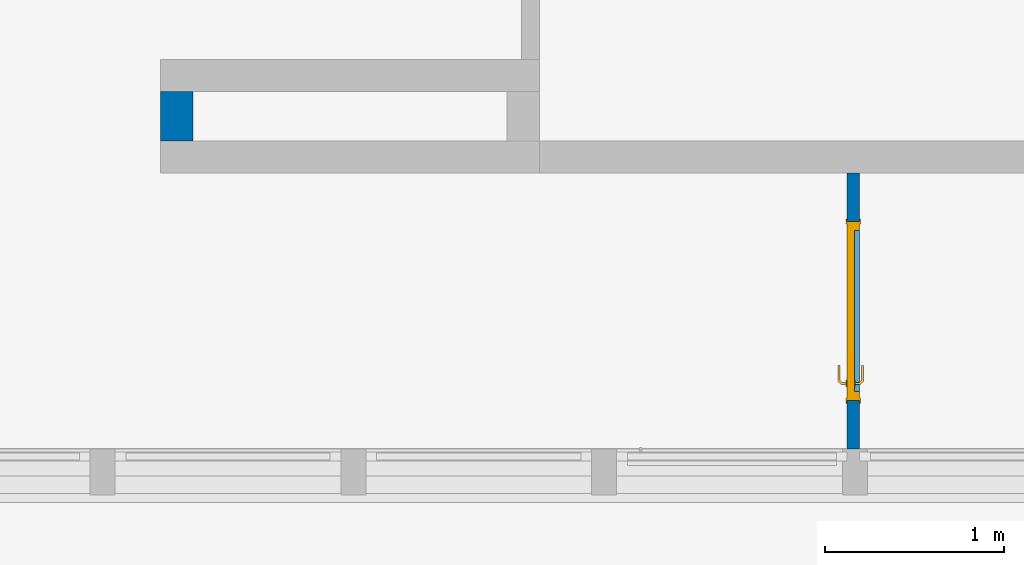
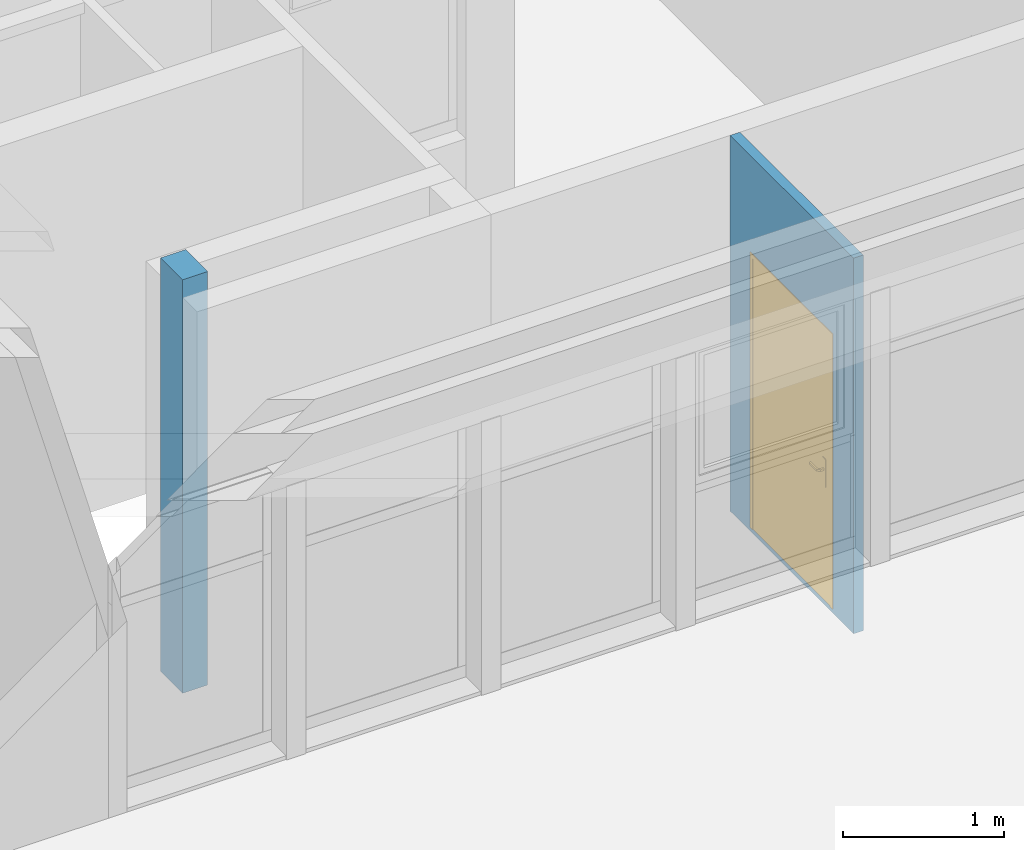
# One storey, part 22 of 49: 2 walls, 1 door, 1 opening.
"""IFC4 building model written with IfcOpenShell, lengths in metres."""

from ifc_helpers import new_model, entity, si_unit, converted_unit, derived_unit, direction, frame, origin, place, context, subcontext, project, spatial, indexed_curve, outline, extrude, polygons, source, transform, mapped, material, material_list, layer, layer_set, constituent, constituent_set, type_object, type_shapes, element, fill, save


model = new_model("IFC4")

# Units and contexts
model_context = context("Model", 3, precision=1e-05, world=origin(), true_north=direction((6.12303176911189e-17, 1.0)))
body_context = subcontext(model_context, "Body", "Model", "MODEL_VIEW")
ifc_project = project(units=[si_unit("LENGTHUNIT", "METRE"), si_unit("AREAUNIT", "SQUARE_METRE"), si_unit("VOLUMEUNIT", "CUBIC_METRE"), converted_unit("PLANEANGLEUNIT", "DEGREE", entity("IfcRatioMeasure", 0.0174532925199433), si_unit("PLANEANGLEUNIT", "RADIAN"), dimensions=[0, 0, 0, 0, 0, 0, 0]), si_unit("MASSUNIT", "GRAM", prefix="KILO"), derived_unit("MASSDENSITYUNIT", [(si_unit("MASSUNIT", "GRAM", prefix="KILO"), 1), (si_unit("LENGTHUNIT", "METRE"), -3)]), derived_unit("MOMENTOFINERTIAUNIT", [(si_unit("LENGTHUNIT", "METRE"), 4)]), si_unit("TIMEUNIT", "SECOND"), si_unit("FREQUENCYUNIT", "HERTZ"), si_unit("THERMODYNAMICTEMPERATUREUNIT", "DEGREE_CELSIUS"), derived_unit("THERMALTRANSMITTANCEUNIT", [(si_unit("MASSUNIT", "GRAM", prefix="KILO"), 1), (si_unit("THERMODYNAMICTEMPERATUREUNIT", "KELVIN"), -1), (si_unit("TIMEUNIT", "SECOND"), -3)]), derived_unit("VOLUMETRICFLOWRATEUNIT", [(si_unit("LENGTHUNIT", "METRE"), 3), (si_unit("TIMEUNIT", "SECOND"), -1)]), si_unit("ELECTRICCURRENTUNIT", "AMPERE"), si_unit("ELECTRICVOLTAGEUNIT", "VOLT"), si_unit("POWERUNIT", "WATT"), si_unit("FORCEUNIT", "NEWTON", prefix="KILO"), si_unit("ILLUMINANCEUNIT", "LUX"), si_unit("LUMINOUSFLUXUNIT", "LUMEN"), si_unit("LUMINOUSINTENSITYUNIT", "CANDELA"), derived_unit("USERDEFINED", [(si_unit("MASSUNIT", "GRAM", prefix="KILO"), -1), (si_unit("LENGTHUNIT", "METRE"), -2), (si_unit("TIMEUNIT", "SECOND"), 3), (si_unit("LUMINOUSFLUXUNIT", "LUMEN"), 1)]), derived_unit("LINEARVELOCITYUNIT", [(si_unit("LENGTHUNIT", "METRE"), 1), (si_unit("TIMEUNIT", "SECOND"), -1)]), si_unit("PRESSUREUNIT", "PASCAL"), derived_unit("USERDEFINED", [(si_unit("LENGTHUNIT", "METRE"), -2), (si_unit("MASSUNIT", "GRAM", prefix="KILO"), 1), (si_unit("TIMEUNIT", "SECOND"), -2)]), derived_unit("LINEARFORCEUNIT", [(si_unit("MASSUNIT", "GRAM", prefix="KILO"), 1), (si_unit("LENGTHUNIT", "METRE"), 1), (si_unit("TIMEUNIT", "SECOND"), -2), (si_unit("LENGTHUNIT", "METRE"), -1)]), derived_unit("PLANARFORCEUNIT", [(si_unit("MASSUNIT", "GRAM", prefix="KILO"), 1), (si_unit("LENGTHUNIT", "METRE"), 1), (si_unit("TIMEUNIT", "SECOND"), -2), (si_unit("LENGTHUNIT", "METRE"), -2)])], contexts=[model_context])

# Site, building, storey
site_placement = place(None, origin())
site = spatial("IfcSite", under=ifc_project, at=site_placement, Name="Default", CompositionType="ELEMENT")
building_placement = place(site_placement, origin())
building = spatial("IfcBuilding", under=site, at=building_placement, Name="HOTEL CONSULAIRE BOULOGNE SUR MER", CompositionType="ELEMENT")
storey_placement = place(building_placement, frame((0.0, 0.0, 6.81974152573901)))
storey = spatial("IfcBuildingStorey", under=building, at=storey_placement, Name="Niveau 2", CompositionType="ELEMENT", Elevation=6.81974152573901)

# Wall, opening, door
ifc_material_1 = material(Name="Mur par défaut", Category="Divers")
ifc_layer_1 = layer(ifc_material_1, 0.07, Name="Mur par défaut", Category="Divers")
ifc_layer_set_1 = layer_set([ifc_layer_1], Name="Mur de base:Int. Plâtre 70 mm")
wall_type_1 = type_object("IfcWallType", Name="Mur de base:Int. Plâtre 70 mm", PredefinedType="NOTDEFINED", material=ifc_layer_set_1)
wall_1_placement = place(storey_placement, frame((7.1661767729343, -19.5649143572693, -0.0349999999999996), z_axis=(0.0, 0.0, 1.0), x_axis=(0.0, 1.0, 0.0)))
wall_1 = element("IfcWall", 1, at=wall_1_placement, inside=storey, type_object=wall_type_1, material=ifc_layer_set_1, Name="Mur de base:Int. Plâtre 70 mm", ObjectType="Mur de base:Int. Plâtre 70 mm", PredefinedType="NOTDEFINED", context=body_context, shape_type="Tessellation", body=[
    polygons([(0.0, -0.035000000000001, 0.0), (1.54002682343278, -0.0350000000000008, 0.0), (1.54002682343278, -0.0350000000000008, 2.857), (0.0, -0.035000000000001, 2.857), (1.2700134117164, -0.0350000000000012, 2.11), (1.2700134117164, -0.0350000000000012, 0.0349999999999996), (0.2700134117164, -0.0350000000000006, 0.0349999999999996), (0.270013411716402, -0.0350000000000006, 2.11), (1.54002682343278, 0.0349999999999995, 0.0), (0.0, 0.0349999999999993, 0.0), (0.0, 0.0349999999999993, 2.857), (1.54002682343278, 0.0349999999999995, 2.857), (1.2700134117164, 0.0349999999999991, 0.0349999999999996), (1.2700134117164, 0.0349999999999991, 2.11), (0.2700134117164, 0.0349999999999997, 2.11), (0.2700134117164, 0.0349999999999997, 0.0349999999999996)], [[[1, 2, 3, 4], [8, 5, 6, 7]], [[9, 10, 11, 12], [14, 15, 16, 13]], [[2, 1, 10, 9]], [[14, 5, 8, 15]], [[2, 9, 12, 3]], [[15, 8, 7, 16]], [[13, 6, 5, 14]], [[10, 1, 4, 11]], [[13, 16, 7, 6]], [[12, 11, 4, 3]]], closed=True),
])
opening_placement = place(wall_1_placement, frame((0.2700134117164, -0.0349999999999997, 0.0349999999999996)))
opening = element("IfcOpeningElement", 2, at=opening_placement, cuts=wall_1, Name="Int. Simple:PP0.93x2.04:1", ObjectType="Opening", PredefinedType="OPENING", context=body_context, shape_type="SweptSolid", body=[
    extrude(outline(indexed_curve([(0.0, 1.0), (0.0, -9.40678225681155e-31), (2.075, -9.40678225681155e-31), (2.075, 1.0), (0.0, 1.0)], self_intersect=False)), frame((0.0, 0.0, 0.0), z_axis=(0.0, 1.0, 0.0), x_axis=(0.0, 0.0, 1.0)), (0.0, 0.0, 1.0), 0.07),
])
ifc_material_2 = material(Name="Finition Peinture - Blanc satiné", Category="Peinture")
ifc_constituent_1 = constituent(ifc_material_2, Name="Finition Peinture - Blanc satiné", Category="Matériaux")
ifc_material_3 = material(Name="Bois - Panneau de porte", Category="Bois")
ifc_constituent_2 = constituent(ifc_material_3, Name="Bois - Panneau de porte", Category="Matériaux")
ifc_material_4 = material(Name="Bois - Cadre de porte", Category="Bois")
ifc_constituent_3 = constituent(ifc_material_4, Name="Bois - Cadre de porte", Category="Matériaux")
ifc_constituent_set = constituent_set(constituents=[ifc_constituent_1, ifc_constituent_2, ifc_constituent_3], Name="MaterialConstituentSet")
ifc_material_list = material_list([ifc_material_3, ifc_material_4, ifc_material_2, ifc_material_4])
door_type = type_object("IfcDoorType", Name="Int. Simple:PP0.93x2.04", OperationType="NOTDEFINED", PredefinedType="DOOR", material=ifc_material_list)
shared_shape = source(origin(), body_context, "Body", "Tessellation", [
    polygons([(0.995000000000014, -0.00500000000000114, 0.870000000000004), (0.995000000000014, -0.00500000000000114, 1.08), (0.985352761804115, -0.00500000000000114, 1.08399601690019), (0.975000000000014, -0.00500000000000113, 1.08535898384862), (0.964647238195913, -0.00500000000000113, 1.08399601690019), (0.955000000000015, -0.00500000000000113, 1.08), (0.955000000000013, -0.00500000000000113, 0.870000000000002), (0.964647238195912, -0.00500000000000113, 0.866003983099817), (0.975000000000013, -0.00500000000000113, 0.86464101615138), (0.985352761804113, -0.00500000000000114, 0.866003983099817), (0.995000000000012, -1.15054632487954e-15, 0.870000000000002), (0.985352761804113, -1.14631637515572e-15, 0.866003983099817), (0.975000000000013, -1.1420864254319e-15, 0.86464101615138), (0.964647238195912, -1.13785647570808e-15, 0.866003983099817), (0.955000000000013, -1.13362652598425e-15, 0.870000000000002), (0.955000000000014, -1.13362652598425e-15, 1.08), (0.964647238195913, -1.13785647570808e-15, 1.08399601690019), (0.975000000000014, -1.1420864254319e-15, 1.08535898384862), (0.985352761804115, -1.14631637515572e-15, 1.08399601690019), (0.995000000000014, -1.15054632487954e-15, 1.08)], [[[1, 2, 3, 4, 5, 6, 7, 8, 9, 10]], [[20, 11, 12, 13, 14, 15, 16, 17, 18, 19]], [[10, 12, 11, 1]], [[9, 13, 12, 10]], [[8, 14, 13, 9]], [[8, 7, 15, 14]], [[15, 7, 6, 16]], [[5, 17, 16, 6]], [[4, 18, 17, 5]], [[3, 19, 18, 4]], [[3, 2, 20, 19]], [[11, 20, 2, 1]]], closed=True),
    polygons([(0.955000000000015, 0.0399999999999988, 1.08), (0.955000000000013, 0.0399999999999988, 0.870000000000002), (0.964647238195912, 0.0399999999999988, 0.866003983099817), (0.975000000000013, 0.0399999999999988, 0.86464101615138), (0.985352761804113, 0.0399999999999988, 0.866003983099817), (0.995000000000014, 0.0399999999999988, 0.870000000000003), (0.995000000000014, 0.0399999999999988, 1.08), (0.985352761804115, 0.0399999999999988, 1.08399601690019), (0.975000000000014, 0.0399999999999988, 1.08535898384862), (0.964647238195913, 0.0399999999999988, 1.08399601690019), (0.955000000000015, 0.0449999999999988, 1.08), (0.964647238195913, 0.0449999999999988, 1.08399601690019), (0.975000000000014, 0.0449999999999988, 1.08535898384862), (0.985352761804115, 0.0449999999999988, 1.08399601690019), (0.995000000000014, 0.0449999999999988, 1.08), (0.995000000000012, 0.0449999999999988, 0.870000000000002), (0.985352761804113, 0.0449999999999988, 0.866003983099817), (0.975000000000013, 0.0449999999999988, 0.86464101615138), (0.964647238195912, 0.0449999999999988, 0.866003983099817), (0.955000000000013, 0.0449999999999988, 0.870000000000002)], [[[6, 7, 8, 9, 10, 1, 2, 3, 4, 5]], [[13, 14, 15, 16, 17, 18, 19, 20, 11, 12]], [[10, 12, 11, 1]], [[9, 13, 12, 10]], [[8, 14, 13, 9]], [[8, 7, 15, 14]], [[16, 15, 7, 6]], [[5, 17, 16, 6]], [[4, 18, 17, 5]], [[3, 19, 18, 4]], [[3, 2, 20, 19]], [[20, 2, 1, 11]]], closed=True),
    polygons([(0.981000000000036, -0.00500000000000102, 1.00699999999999), (0.981000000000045, -0.00500000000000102, 0.992999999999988), (0.977025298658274, -0.00500000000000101, 0.99221955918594), (0.972974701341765, -0.00500000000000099, 0.992219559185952), (0.968999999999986, -0.00500000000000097, 0.993000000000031), (0.968999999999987, -0.00500000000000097, 1.007), (0.972974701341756, -0.00500000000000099, 1.00778044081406), (0.977025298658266, -0.00500000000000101, 1.00778044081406), (0.968999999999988, -0.0276803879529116, 1.007), (0.972974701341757, -0.029326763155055, 1.00778044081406), (0.977025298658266, -0.0310045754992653, 1.00778044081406), (0.981000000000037, -0.0326509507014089, 1.007), (0.968999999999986, -0.027680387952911, 0.993000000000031), (0.981000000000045, -0.0326509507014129, 0.992999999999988), (0.977025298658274, -0.0310045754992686, 0.99221955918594), (0.972974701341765, -0.0293267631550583, 0.992219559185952), (0.957652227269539, -0.0390281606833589, 1.007), (0.959298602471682, -0.043002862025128, 1.00778044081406), (0.960976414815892, -0.0470534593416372, 1.00778044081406), (0.962622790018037, -0.0510281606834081, 1.007), (0.957652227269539, -0.0390281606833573, 0.993000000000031), (0.96262279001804, -0.0510281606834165, 0.992999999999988), (0.960976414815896, -0.047053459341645, 0.99221955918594), (0.959298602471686, -0.0430028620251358, 0.992219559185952), (0.874981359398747, -0.0510281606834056, 1.007), (0.874981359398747, -0.0470534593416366, 1.00778044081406), (0.874981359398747, -0.0430028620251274, 1.00778044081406), (0.874981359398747, -0.039028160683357, 1.00699999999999), (0.874981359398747, -0.0390281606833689, 0.993000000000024), (0.874981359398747, -0.0430028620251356, 0.992219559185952), (0.874981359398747, -0.0470534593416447, 0.99221955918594), (0.874981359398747, -0.0510281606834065, 0.992999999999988), (0.922692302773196, -0.0510281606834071, 1.007), (0.917139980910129, -0.0450281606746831, 1.0078786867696), (0.916316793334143, -0.0390281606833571, 1.007), (0.922692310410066, -0.0510281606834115, 0.992999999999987), (0.917139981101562, -0.0450281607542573, 0.992121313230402), (0.916316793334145, -0.039028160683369, 0.993000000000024)], [[[7, 8, 1, 2, 3, 4, 5, 6]], [[17, 21, 38, 29, 28, 35]], [[1, 8, 11, 12]], [[8, 7, 10, 18, 19, 11]], [[7, 6, 9, 10]], [[13, 9, 6, 5]], [[25, 26, 27, 28, 29, 30, 31, 32]], [[4, 16, 13, 5]], [[4, 3, 15, 23, 24, 16]], [[2, 14, 15, 3]], [[12, 14, 2, 1]], [[12, 11, 19, 20]], [[10, 9, 17, 18]], [[21, 17, 9, 13]], [[13, 16, 24, 21]], [[15, 14, 22, 23]], [[20, 22, 14, 12]], [[34, 26, 33]], [[33, 26, 25]], [[33, 20, 19]], [[18, 35, 34]], [[35, 18, 17]], [[28, 27, 35]], [[34, 27, 26]], [[34, 35, 27]], [[34, 33, 19]], [[18, 34, 19]], [[37, 30, 38]], [[31, 37, 36]], [[24, 38, 21]], [[30, 29, 38]], [[31, 36, 32]], [[36, 23, 22]], [[37, 23, 36]], [[37, 24, 23]], [[37, 38, 24]], [[30, 37, 31]], [[22, 20, 33, 25, 32, 36]]], closed=True),
    polygons([(0.968999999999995, 0.044999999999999, 0.993000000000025), (0.972974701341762, 0.044999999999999, 0.992219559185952), (0.977025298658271, 0.044999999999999, 0.99221955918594), (0.981000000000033, 0.044999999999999, 0.992999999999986), (0.981000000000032, 0.044999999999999, 1.007), (0.977025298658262, 0.044999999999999, 1.00778044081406), (0.972974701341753, 0.044999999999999, 1.00778044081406), (0.968999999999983, 0.044999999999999, 1.007), (0.968999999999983, 0.0674852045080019, 1.007), (0.968999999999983, 0.067485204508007, 0.993000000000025), (0.981000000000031, 0.0724557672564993, 1.007), (0.977025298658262, 0.0708093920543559, 1.00778044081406), (0.972974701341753, 0.0691315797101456, 1.00778044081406), (0.981000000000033, 0.0724557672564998, 0.992999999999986), (0.972974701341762, 0.0691315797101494, 0.992219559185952), (0.977025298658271, 0.0708093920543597, 0.99221955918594), (0.957514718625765, 0.0789704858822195, 1.007), (0.957514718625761, 0.0789704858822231, 0.993000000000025), (0.962485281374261, 0.0909704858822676, 1.007), (0.960838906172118, 0.0869957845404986, 1.00778044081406), (0.959161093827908, 0.0829451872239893, 1.00778044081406), (0.962485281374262, 0.090970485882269, 0.992999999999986), (0.959161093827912, 0.0829451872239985, 0.992219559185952), (0.960838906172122, 0.0869957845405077, 0.99221955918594), (0.874954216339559, 0.0789704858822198, 0.993000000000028), (0.874954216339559, 0.078970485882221, 1.007), (0.874954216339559, 0.08294518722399, 1.00778044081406), (0.874954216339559, 0.0869957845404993, 1.00778044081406), (0.874954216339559, 0.0909704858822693, 1.007), (0.874954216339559, 0.0909704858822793, 0.992999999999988), (0.874954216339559, 0.0869957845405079, 0.99221955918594), (0.874954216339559, 0.0829451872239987, 0.992219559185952), (0.922554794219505, 0.0909704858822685, 1.007), (0.917057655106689, 0.0849704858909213, 1.0078786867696), (0.916234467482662, 0.0789704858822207, 1.007), (0.922554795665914, 0.0909704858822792, 0.992999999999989), (0.917057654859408, 0.0849704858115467, 0.992121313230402), (0.916234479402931, 0.0789704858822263, 0.993000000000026)], [[[2, 3, 4, 5, 6, 7, 8, 1]], [[18, 17, 35, 26, 25, 38]], [[9, 10, 1, 8]], [[27, 28, 29, 30, 31, 32, 25, 26]], [[7, 13, 9, 8]], [[7, 6, 12, 20, 21, 13]], [[5, 11, 12, 6]], [[11, 5, 4, 14]], [[4, 3, 16, 14]], [[3, 2, 15, 23, 24, 16]], [[2, 1, 10, 15]], [[17, 18, 10, 9]], [[9, 13, 21, 17]], [[11, 19, 20, 12]], [[22, 19, 11, 14]], [[14, 16, 24, 22]], [[15, 10, 18, 23]], [[34, 27, 35]], [[28, 34, 33]], [[21, 35, 17]], [[27, 26, 35]], [[28, 33, 29]], [[33, 20, 19]], [[34, 20, 33]], [[34, 21, 20]], [[34, 35, 21]], [[27, 34, 28]], [[19, 22, 36, 30, 29, 33]], [[37, 31, 36]], [[36, 31, 30]], [[36, 22, 24]], [[23, 38, 37]], [[38, 23, 18]], [[25, 32, 38]], [[37, 32, 31]], [[37, 38, 32]], [[37, 36, 24]], [[23, 37, 24]]], closed=True),
    polygons([(1.03500000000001, 0.04, 2.04), (1.03500000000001, 0.04, 0.0), (0.105000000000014, 0.04, 0.0), (0.105000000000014, 0.04, 2.04), (1.03500000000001, -5.07593966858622e-17, 2.04), (0.105000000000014, -5.07593966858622e-17, 2.04), (0.105000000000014, -5.07593966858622e-17, 0.0), (1.03500000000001, -5.07593966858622e-17, 0.0)], [[[3, 4, 1, 2]], [[8, 5, 6, 7]], [[5, 1, 4, 6]], [[6, 4, 3, 7]], [[7, 3, 2, 8]], [[8, 2, 1, 5]]], closed=True),
    polygons([(1.07000000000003, -4.22994972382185e-18, 0.0), (1.03500000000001, -4.22994972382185e-18, 0.0), (1.03500000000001, 0.04, 0.0), (1.02000000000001, 0.04, 0.0), (1.02000000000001, 0.0699999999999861, 0.0), (1.07000000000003, 0.0699999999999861, 0.0), (1.07000000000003, 0.0699999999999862, 2.07500000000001), (1.07000000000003, -4.22994972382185e-18, 2.07500000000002), (1.02000000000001, 0.0699999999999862, 2.025), (0.120000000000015, 0.0699999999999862, 2.025), (0.120000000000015, 0.0699999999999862, -2.91614501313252e-25), (0.0699999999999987, 0.0699999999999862, 5.63787022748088e-24), (0.0699999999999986, 0.0699999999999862, 2.07500000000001), (1.02000000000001, 0.04, 2.025), (1.03500000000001, 0.04, 2.04), (0.105000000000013, 0.04, 2.04), (0.105000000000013, 0.04, -4.78103040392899e-25), (0.120000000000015, 0.04, -5.82688076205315e-24), (0.120000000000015, 0.04, 2.025), (1.03500000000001, -4.22994972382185e-18, 2.04), (0.0699999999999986, -4.22994972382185e-18, 2.07500000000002), (0.0699999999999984, -4.22994972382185e-18, -7.90980323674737e-25), (0.105000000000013, -4.22994972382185e-18, -1.66105658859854e-24), (0.105000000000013, -4.22994972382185e-18, 2.04)], [[[4, 5, 6, 1, 2, 3]], [[17, 23, 22, 12, 11, 18]], [[19, 10, 9, 14]], [[24, 16, 15, 20]], [[7, 8, 1, 6]], [[11, 10, 19, 18]], [[17, 16, 24, 23]], [[9, 10, 11, 12, 13, 7, 6, 5]], [[9, 5, 4, 14]], [[15, 3, 2, 20]], [[12, 22, 21, 13]], [[19, 14, 4, 3, 15, 16, 17, 18]], [[24, 20, 2, 1, 8, 21, 22, 23]], [[13, 21, 8, 7]]], closed=True),
    polygons([(1.05500000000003, 0.0699999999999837, 0.0), (1.05500000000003, 0.0749999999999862, 0.0), (1.08500000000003, 0.0749999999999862, 0.0), (1.08500000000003, 0.0699999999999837, 0.0), (1.08500000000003, 0.0699999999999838, 2.09000000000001), (0.0550000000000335, 0.0699999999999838, 2.09000000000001), (0.0550000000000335, 0.0699999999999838, -9.00794253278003e-25), (0.0850000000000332, 0.0699999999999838, -1.80158915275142e-24), (0.0850000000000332, 0.0699999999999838, 2.06000000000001), (1.05500000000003, 0.0699999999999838, 2.06000000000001), (1.08500000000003, 0.0749999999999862, 2.09000000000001), (1.05500000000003, 0.0749999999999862, 2.06000000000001), (0.0850000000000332, 0.0749999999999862, 2.06000000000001), (0.0850000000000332, 0.0749999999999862, -4.03399441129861e-24), (0.0550000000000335, 0.0749999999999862, -4.03399441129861e-24), (0.0550000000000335, 0.0749999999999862, 2.09000000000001)], [[[2, 3, 4, 1]], [[7, 15, 14, 8]], [[9, 13, 12, 10]], [[9, 10, 1, 4, 5, 6, 7, 8]], [[11, 5, 4, 3]], [[8, 14, 13, 9]], [[12, 13, 14, 15, 16, 11, 3, 2]], [[10, 12, 2, 1]], [[15, 7, 6, 16]], [[6, 5, 11, 16]]], closed=True),
    polygons([(1.05500000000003, -0.005, 0.0), (1.05500000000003, -8.33300095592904e-16, 0.0), (1.08500000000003, -8.33300095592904e-16, 0.0), (1.08500000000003, -0.005, 0.0), (0.0850000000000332, -0.005, 5.41433564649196e-16), (0.0550000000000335, -0.005, 5.41433564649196e-16), (0.0550000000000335, -8.33300095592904e-16, 5.41433564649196e-16), (0.0850000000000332, -8.33300095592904e-16, 5.41433564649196e-16), (1.08500000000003, -0.005, 2.09000000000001), (0.0550000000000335, -0.005, 2.09000000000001), (0.0850000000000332, -0.005, 2.06000000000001), (1.05500000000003, -0.005, 2.06000000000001), (1.08500000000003, -8.33300095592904e-16, 2.09000000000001), (1.05500000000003, -8.33300095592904e-16, 2.06000000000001), (0.0850000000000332, -8.33300095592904e-16, 2.06000000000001), (0.0550000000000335, -8.33300095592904e-16, 2.09000000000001)], [[[2, 3, 4, 1]], [[6, 7, 8, 5]], [[15, 14, 12, 11]], [[11, 12, 1, 4, 9, 10, 6, 5]], [[9, 4, 3, 13]], [[5, 8, 15, 11]], [[14, 15, 8, 7, 16, 13, 3, 2]], [[14, 2, 1, 12]], [[6, 10, 16, 7]], [[10, 9, 13, 16]]], closed=True),
])
type_shapes(door_type, [shared_shape])
door_placement = place(opening_placement, frame((1.07000000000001, 0.0699999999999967, 0.0), z_axis=(0.0, 0.0, 1.0), x_axis=(-1.0, 0.0, 0.0)))
door = element("IfcDoor", 3, at=door_placement, inside=storey, type_object=door_type, material=ifc_constituent_set, Name="Int. Simple:PP0.93x2.04", ObjectType="Int. Simple:PP0.93x2.04", OperationType="NOTDEFINED", OverallHeight=2.075, OverallWidth=1.0, PredefinedType="DOOR", context=body_context, shape_type="MappedRepresentation", body=[
    mapped(shared_shape, transform((0.0, 0.0, 0.0), scale=1.0)),
])
fill(opening, door)

# Wall
ifc_layer_2 = layer(ifc_material_1, 0.18, Name="Mur par défaut", Category="Divers")
ifc_layer_set_2 = layer_set([ifc_layer_2], Name="Mur de base:Générique - Int.180")
wall_type_2 = type_object("IfcWallType", Name="Mur de base:Générique - Int.180", PredefinedType="NOTDEFINED", material=ifc_layer_set_2)
wall_2_placement = place(storey_placement, frame((3.3874549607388, -17.5688875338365, -0.18799999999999), z_axis=(0.0, 0.0, 1.0), x_axis=(0.0, -1.0, 0.0)))
element("IfcWall", 4, at=wall_2_placement, inside=storey, type_object=wall_type_2, material=ifc_layer_set_2, Name="Mur de base:Générique - Int.180", ObjectType="Mur de base:Générique - Int.180", PredefinedType="NOTDEFINED", context=body_context, shape_type="SweptSolid", body=[
    extrude(outline(indexed_curve([(0.276, 0.0900000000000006), (-1.49754604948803e-16, 0.0900000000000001), (1.49754604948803e-16, -0.0900000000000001), (0.276, -0.0899999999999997), (0.276, 0.0900000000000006)], self_intersect=False)), origin(), (0.0, 0.0, 1.0), 3.14499999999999),
])

save(model, "model.ifc")
